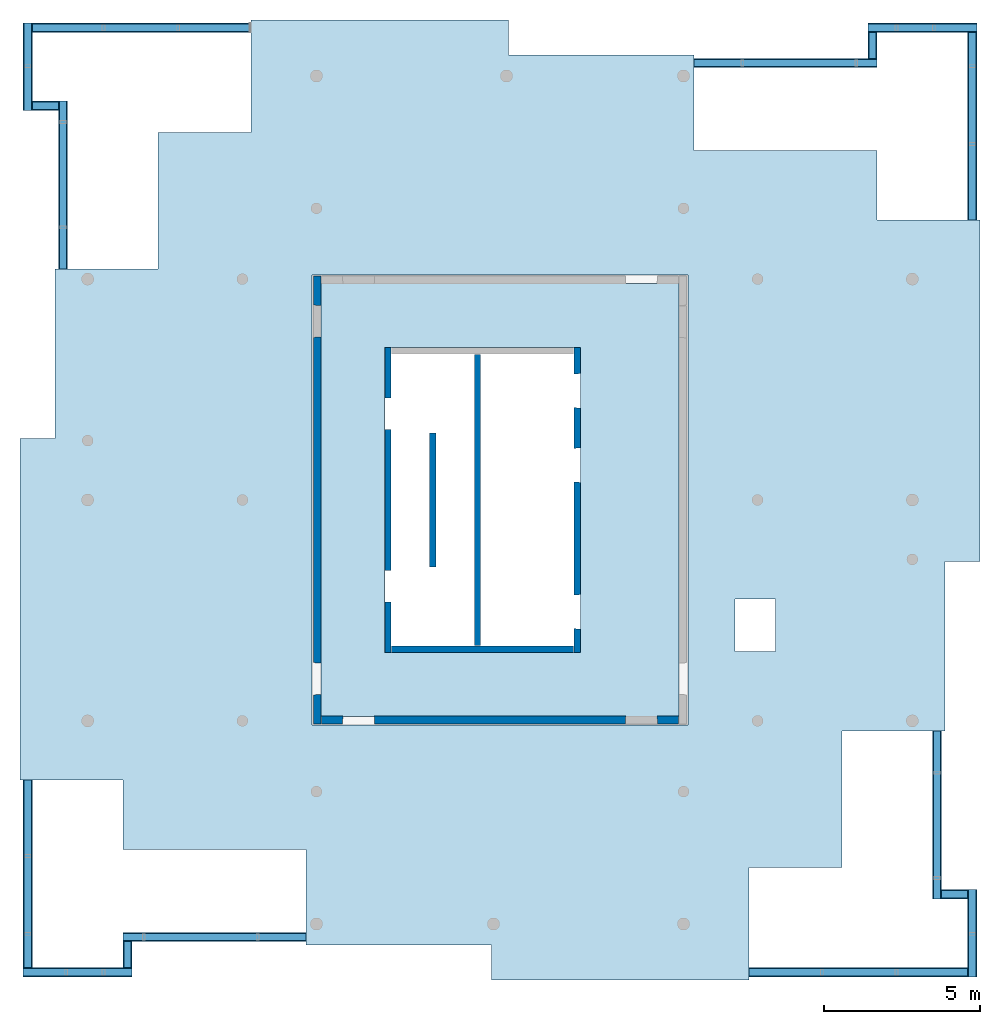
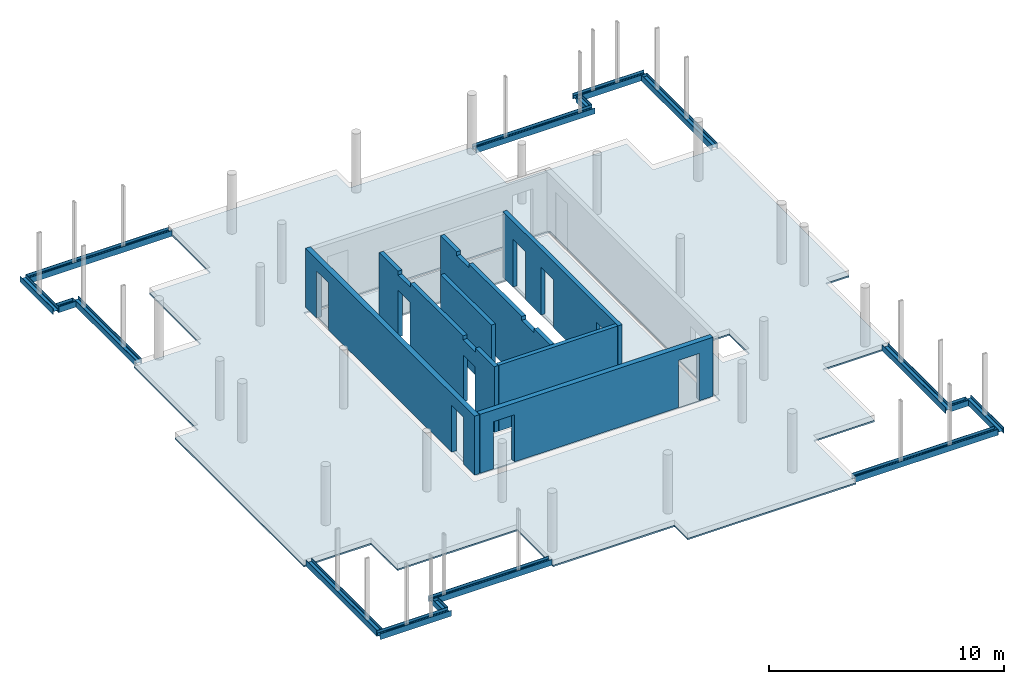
# One storey, part 5 of 7: 16 beams, 7 walls, 2 slabs, 22 openings.
"""IFC2X3 building model written with IfcOpenShell, lengths in millimetres."""

from ifc_helpers import new_model, entity, si_unit, converted_unit, derived_unit, direction, frame, frame_2d, origin, origin_2d_with_axis, place, context, subcontext, project, spatial, polyline, rectangle, i_section, outline, extrude, faceted_brep, material, layer, layer_set, layer_usage, type_object, element, save


model = new_model("IFC2X3")

# Units and contexts
model_context = context("Model", 3, precision=0.01, world=origin(), true_north=direction((6.12303176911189e-17, 1.0)))
body_context = subcontext(model_context, "Body", "Model", "MODEL_VIEW")
ifc_project = project(units=[si_unit("LENGTHUNIT", "METRE", prefix="MILLI"), si_unit("AREAUNIT", "SQUARE_METRE"), si_unit("VOLUMEUNIT", "CUBIC_METRE"), converted_unit("PLANEANGLEUNIT", "DEGREE", entity("IfcRatioMeasure", 0.0174532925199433), si_unit("PLANEANGLEUNIT", "RADIAN"), dimensions=[0, 0, 0, 0, 0, 0, 0]), si_unit("MASSUNIT", "GRAM", prefix="KILO"), derived_unit("MASSDENSITYUNIT", [(si_unit("MASSUNIT", "GRAM", prefix="KILO"), 1), (si_unit("LENGTHUNIT", "METRE"), -3)]), si_unit("TIMEUNIT", "SECOND"), si_unit("FREQUENCYUNIT", "HERTZ"), si_unit("THERMODYNAMICTEMPERATUREUNIT", "DEGREE_CELSIUS"), derived_unit("THERMALTRANSMITTANCEUNIT", [(si_unit("MASSUNIT", "GRAM", prefix="KILO"), 1), (si_unit("THERMODYNAMICTEMPERATUREUNIT", "KELVIN"), -1), (si_unit("TIMEUNIT", "SECOND"), -3)]), derived_unit("VOLUMETRICFLOWRATEUNIT", [(si_unit("LENGTHUNIT", "METRE"), 3), (si_unit("TIMEUNIT", "SECOND"), -1)]), si_unit("ELECTRICCURRENTUNIT", "AMPERE"), si_unit("ELECTRICVOLTAGEUNIT", "VOLT"), si_unit("POWERUNIT", "WATT"), si_unit("FORCEUNIT", "NEWTON", prefix="KILO"), si_unit("ILLUMINANCEUNIT", "LUX"), si_unit("LUMINOUSFLUXUNIT", "LUMEN"), si_unit("LUMINOUSINTENSITYUNIT", "CANDELA"), derived_unit("USERDEFINED", [(si_unit("MASSUNIT", "GRAM", prefix="KILO"), -1), (si_unit("LENGTHUNIT", "METRE"), -2), (si_unit("TIMEUNIT", "SECOND"), 3), (si_unit("LUMINOUSFLUXUNIT", "LUMEN"), 1)]), derived_unit("LINEARVELOCITYUNIT", [(si_unit("LENGTHUNIT", "METRE"), 1), (si_unit("TIMEUNIT", "SECOND"), -1)]), si_unit("PRESSUREUNIT", "PASCAL"), derived_unit("USERDEFINED", [(si_unit("LENGTHUNIT", "METRE"), -2), (si_unit("MASSUNIT", "GRAM", prefix="KILO"), 1), (si_unit("TIMEUNIT", "SECOND"), -2)])], contexts=[model_context])

# Site, building, storey
site_placement = place(None, origin())
site = spatial("IfcSite", under=ifc_project, at=site_placement, Name="Default", CompositionType="ELEMENT")
building_placement = place(site_placement, origin())
building = spatial("IfcBuilding", under=site, at=building_placement, Name="niet gebruiken", CompositionType="ELEMENT")
storey_placement = place(building_placement, frame((0.0, 0.0, 168300.0)))
storey = spatial("IfcBuildingStorey", under=building, at=storey_placement, Name="54 vierenvijftigste verdieping", CompositionType="ELEMENT", Elevation=168300.0)

# Beams
ifc_material_1 = material(Name="NLRS_h2_staal")
beam_type = type_object("IfcBeamType", Name="NLRS_28.11_SF_WPB_stalen ligger HEB_gen:ligger HEB 300", PredefinedType="BEAM")
beam_1_placement = place(storey_placement, frame((126420.0, 2470.0, -265.0), z_axis=(0.0, 0.0, 1.0), x_axis=(0.0, 1.0, 0.0)))
element("IfcBeam", 1, at=beam_1_placement, inside=storey, type_object=beam_type, material=ifc_material_1, Name="NLRS_28.11_SF_WPB_stalen ligger HEB_gen:ligger HEB 300", ObjectType="NLRS_28.11_SF_WPB_stalen ligger HEB_gen:ligger HEB 300", context=body_context, shape_type="SweptSolid", body=[
    extrude(i_section(OverallWidth=300.000000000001, OverallDepth=300.000000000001, WebThickness=10.9999999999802, FlangeThickness=18.9999999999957, FilletRadius=27.0000000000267, at=frame_2d((0.0, -1.73230318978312e-11), x_axis=(1.0, 0.0))), frame((0.0, -150.0, 0.0), z_axis=(1.0, 0.0, 0.0), x_axis=(0.0, 0.0, -1.0)), (0.0, 0.0, 1.0), 6025.0),
])
beam_2_placement = place(storey_placement, frame((129924.0, 2170.0, -265.0), z_axis=(0.0, 0.0, 1.0), x_axis=(-1.0, 0.0, 0.0)))
element("IfcBeam", 2, at=beam_2_placement, inside=storey, type_object=beam_type, material=ifc_material_1, Name="NLRS_28.11_SF_WPB_stalen ligger HEB_gen:ligger HEB 300", ObjectType="NLRS_28.11_SF_WPB_stalen ligger HEB_gen:ligger HEB 300", context=body_context, shape_type="SweptSolid", body=[
    extrude(i_section(OverallWidth=300.000000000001, OverallDepth=300.000000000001, WebThickness=10.9999999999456, FlangeThickness=18.9999999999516, FilletRadius=27.0000000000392, at=frame_2d((0.0, 1.09423581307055e-12), x_axis=(1.0, 0.0))), frame((0.0, -150.0, 0.0), z_axis=(1.0, 0.0, 0.0), x_axis=(0.0, 0.0, -1.0)), (0.0, 0.0, 1.0), 3504.0),
])
beam_3_placement = place(storey_placement, frame((129924.0, 3301.0, -265.0), z_axis=(0.0, 0.0, 1.0), x_axis=(0.0, -1.0, 0.0)))
element("IfcBeam", 3, at=beam_3_placement, inside=storey, type_object=beam_type, material=ifc_material_1, Name="NLRS_28.11_SF_WPB_stalen ligger HEB_gen:ligger HEB 300", ObjectType="NLRS_28.11_SF_WPB_stalen ligger HEB_gen:ligger HEB 300", context=body_context, shape_type="SweptSolid", body=[
    extrude(i_section(OverallWidth=300.000000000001, OverallDepth=300.000000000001, WebThickness=10.9999999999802, FlangeThickness=19.000000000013, FilletRadius=27.0000000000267, at=frame_2d((0.0, -1.73230318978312e-11), x_axis=(1.0, 0.0))), frame((0.0, -150.0, 0.0), z_axis=(1.0, 0.0, 0.0), x_axis=(0.0, 0.0, -1.0)), (0.0, 0.0, 1.0), 831.000000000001),
])
beam_4_placement = place(storey_placement, frame((135520.0, 3301.0, -265.0), z_axis=(0.0, 0.0, 1.0), x_axis=(-1.0, 0.0, 0.0)))
element("IfcBeam", 4, at=beam_4_placement, inside=storey, type_object=beam_type, material=ifc_material_1, Name="NLRS_28.11_SF_WPB_stalen ligger HEB_gen:ligger HEB 300", ObjectType="NLRS_28.11_SF_WPB_stalen ligger HEB_gen:ligger HEB 300", context=body_context, shape_type="SweptSolid", body=[
    extrude(i_section(OverallWidth=300.000000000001, OverallDepth=300.000000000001, WebThickness=10.999999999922, FlangeThickness=18.9999999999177, FilletRadius=27.0000000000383, at=frame_2d((0.0, 2.70006239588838e-13), x_axis=(1.0, 0.0))), frame((0.0, -150.0, 0.0), z_axis=(1.0, 0.0, 0.0), x_axis=(0.0, 0.0, -1.0)), (0.0, 0.0, 1.0), 5896.00000000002),
])
beam_5_placement = place(storey_placement, frame((126720.0, 32830.0, -265.0)))
element("IfcBeam", 5, at=beam_5_placement, inside=storey, type_object=beam_type, material=ifc_material_1, Name="NLRS_28.11_SF_WPB_stalen ligger HEB_gen:ligger HEB 300", ObjectType="NLRS_28.11_SF_WPB_stalen ligger HEB_gen:ligger HEB 300", context=body_context, shape_type="SweptSolid", body=[
    extrude(i_section(OverallWidth=300.000000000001, OverallDepth=299.999999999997, WebThickness=10.9999999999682, FlangeThickness=18.999999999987, FilletRadius=27.0000000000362, at=frame_2d((0.0, 4.33431068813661e-12), x_axis=(1.0, 0.0))), frame((0.0, -150.0, 0.0), z_axis=(1.0, 0.0, 0.0), x_axis=(0.0, 0.0, -1.0)), (0.0, 0.0, 1.0), 6990.00000000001),
])
beam_6_placement = place(storey_placement, frame((126420.0, 30026.0, -265.0), z_axis=(0.0, 0.0, 1.0), x_axis=(0.0, 1.0, 0.0)))
element("IfcBeam", 6, at=beam_6_placement, inside=storey, type_object=beam_type, material=ifc_material_1, Name="NLRS_28.11_SF_WPB_stalen ligger HEB_gen:ligger HEB 300", ObjectType="NLRS_28.11_SF_WPB_stalen ligger HEB_gen:ligger HEB 300", context=body_context, shape_type="SweptSolid", body=[
    extrude(i_section(OverallWidth=300.000000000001, OverallDepth=300.000000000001, WebThickness=10.9999999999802, FlangeThickness=19.000000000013, FilletRadius=27.0000000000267, at=frame_2d((0.0, 3.46602746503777e-11), x_axis=(1.0, 0.0))), frame((0.0, -150.0, 0.0), z_axis=(1.0, 0.0, 0.0), x_axis=(0.0, 0.0, -1.0)), (0.0, 0.0, 1.0), 2804.00000000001),
])
beam_7_placement = place(storey_placement, frame((127551.0, 30026.0, -265.0), z_axis=(0.0, 0.0, 1.0), x_axis=(-1.0, 0.0, 0.0)))
element("IfcBeam", 7, at=beam_7_placement, inside=storey, type_object=beam_type, material=ifc_material_1, Name="NLRS_28.11_SF_WPB_stalen ligger HEB_gen:ligger HEB 300", ObjectType="NLRS_28.11_SF_WPB_stalen ligger HEB_gen:ligger HEB 300", context=body_context, shape_type="SweptSolid", body=[
    extrude(i_section(OverallWidth=300.000000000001, OverallDepth=299.999999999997, WebThickness=10.9999999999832, FlangeThickness=19.0000000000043, FilletRadius=27.0000000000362, at=frame_2d((0.0, 4.33431068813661e-12), x_axis=(1.0, 0.0))), frame((0.0, -150.0, 0.0), z_axis=(1.0, 0.0, 0.0), x_axis=(0.0, 0.0, -1.0)), (0.0, 0.0, 1.0), 831.000000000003),
])
beam_8_placement = place(storey_placement, frame((127551.0, 24930.0, -265.0), z_axis=(0.0, 0.0, 1.0), x_axis=(0.0, 1.0, 0.0)))
element("IfcBeam", 8, at=beam_8_placement, inside=storey, type_object=beam_type, material=ifc_material_1, Name="NLRS_28.11_SF_WPB_stalen ligger HEB_gen:ligger HEB 300", ObjectType="NLRS_28.11_SF_WPB_stalen ligger HEB_gen:ligger HEB 300", context=body_context, shape_type="SweptSolid", body=[
    extrude(i_section(OverallWidth=300.000000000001, OverallDepth=300.000000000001, WebThickness=10.9999999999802, FlangeThickness=19.000000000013, FilletRadius=27.0000000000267, at=frame_2d((0.0, -1.73230318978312e-11), x_axis=(1.0, 0.0))), frame((0.0, -150.0, 0.0), z_axis=(1.0, 0.0, 0.0), x_axis=(0.0, 0.0, -1.0)), (0.0, 0.0, 1.0), 5396.0),
])
beam_9_placement = place(storey_placement, frame((157080.0, 32530.0, -265.0), z_axis=(0.0, 0.0, 1.0), x_axis=(0.0, -1.0, 0.0)))
element("IfcBeam", 9, at=beam_9_placement, inside=storey, type_object=beam_type, material=ifc_material_1, Name="NLRS_28.11_SF_WPB_stalen ligger HEB_gen:ligger HEB 300", ObjectType="NLRS_28.11_SF_WPB_stalen ligger HEB_gen:ligger HEB 300", context=body_context, shape_type="SweptSolid", body=[
    extrude(i_section(OverallWidth=300.000000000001, OverallDepth=300.000000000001, WebThickness=10.9999999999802, FlangeThickness=19.000000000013, FilletRadius=27.000000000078, at=origin_2d_with_axis()), frame((0.0, -150.0, 0.0), z_axis=(1.0, 0.0, 0.0), x_axis=(0.0, 0.0, -1.0)), (0.0, 0.0, 1.0), 6025.0),
])
beam_10_placement = place(storey_placement, frame((153576.0, 32830.0, -265.0)))
element("IfcBeam", 10, at=beam_10_placement, inside=storey, type_object=beam_type, material=ifc_material_1, Name="NLRS_28.11_SF_WPB_stalen ligger HEB_gen:ligger HEB 300", ObjectType="NLRS_28.11_SF_WPB_stalen ligger HEB_gen:ligger HEB 300", context=body_context, shape_type="SweptSolid", body=[
    extrude(i_section(OverallWidth=300.000000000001, OverallDepth=299.999999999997, WebThickness=10.9999999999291, FlangeThickness=18.9999999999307, FilletRadius=27.0000000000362, at=frame_2d((0.0, 4.32009983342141e-12), x_axis=(1.0, 0.0))), frame((0.0, -150.0, 0.0), z_axis=(1.0, 0.0, 0.0), x_axis=(0.0, 0.0, -1.0)), (0.0, 0.0, 1.0), 3504.00000000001),
])
beam_11_placement = place(storey_placement, frame((153576.0, 31699.0, -265.0), z_axis=(0.0, 0.0, 1.0), x_axis=(0.0, 1.0, 0.0)))
element("IfcBeam", 11, at=beam_11_placement, inside=storey, type_object=beam_type, material=ifc_material_1, Name="NLRS_28.11_SF_WPB_stalen ligger HEB_gen:ligger HEB 300", ObjectType="NLRS_28.11_SF_WPB_stalen ligger HEB_gen:ligger HEB 300", context=body_context, shape_type="SweptSolid", body=[
    extrude(i_section(OverallWidth=300.000000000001, OverallDepth=300.000000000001, WebThickness=10.9999999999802, FlangeThickness=18.9999999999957, FilletRadius=27.0000000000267, at=frame_2d((0.0, 1.73230318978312e-11), x_axis=(1.0, 0.0))), frame((0.0, -150.0, 0.0), z_axis=(1.0, 0.0, 0.0), x_axis=(0.0, 0.0, -1.0)), (0.0, 0.0, 1.0), 831.000000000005),
])
beam_12_placement = place(storey_placement, frame((147980.0, 31699.0, -265.0)))
element("IfcBeam", 12, at=beam_12_placement, inside=storey, type_object=beam_type, material=ifc_material_1, Name="NLRS_28.11_SF_WPB_stalen ligger HEB_gen:ligger HEB 300", ObjectType="NLRS_28.11_SF_WPB_stalen ligger HEB_gen:ligger HEB 300", context=body_context, shape_type="SweptSolid", body=[
    extrude(i_section(OverallWidth=300.000000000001, OverallDepth=300.000000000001, WebThickness=10.9999999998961, FlangeThickness=18.9999999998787, FilletRadius=27.0000000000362, at=frame_2d((0.0, 4.33431068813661e-12), x_axis=(1.0, 0.0))), frame((0.0, -150.0, 0.0), z_axis=(1.0, 0.0, 0.0), x_axis=(0.0, 0.0, -1.0)), (0.0, 0.0, 1.0), 5885.00000000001),
])
beam_13_placement = place(storey_placement, frame((156780.0, 2170.0, -265.0), z_axis=(0.0, 0.0, 1.0), x_axis=(-1.0, 0.0, 0.0)))
element("IfcBeam", 13, at=beam_13_placement, inside=storey, type_object=beam_type, material=ifc_material_1, Name="NLRS_28.11_SF_WPB_stalen ligger HEB_gen:ligger HEB 300", ObjectType="NLRS_28.11_SF_WPB_stalen ligger HEB_gen:ligger HEB 300", context=body_context, shape_type="SweptSolid", body=[
    extrude(i_section(OverallWidth=300.000000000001, OverallDepth=300.0, WebThickness=10.9999999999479, FlangeThickness=18.9999999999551, FilletRadius=27.0000000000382, at=frame_2d((0.0, 6.67910171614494e-13), x_axis=(1.0, 0.0))), frame((0.0, -150.0, 0.0), z_axis=(1.0, 0.0, 0.0), x_axis=(0.0, 0.0, -1.0)), (0.0, 0.0, 1.0), 7025.0),
])
beam_14_placement = place(storey_placement, frame((157080.0, 4974.0, -265.0), z_axis=(0.0, 0.0, 1.0), x_axis=(0.0, -1.0, 0.0)))
element("IfcBeam", 14, at=beam_14_placement, inside=storey, type_object=beam_type, material=ifc_material_1, Name="NLRS_28.11_SF_WPB_stalen ligger HEB_gen:ligger HEB 300", ObjectType="NLRS_28.11_SF_WPB_stalen ligger HEB_gen:ligger HEB 300", context=body_context, shape_type="SweptSolid", body=[
    extrude(i_section(OverallWidth=300.000000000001, OverallDepth=300.000000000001, WebThickness=10.9999999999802, FlangeThickness=18.9999999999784, FilletRadius=27.000000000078, at=frame_2d((0.0, -3.46602746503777e-11), x_axis=(1.0, 0.0))), frame((0.0, -150.0, 0.0), z_axis=(1.0, 0.0, 0.0), x_axis=(0.0, 0.0, -1.0)), (0.0, 0.0, 1.0), 2804.0),
])
beam_15_placement = place(storey_placement, frame((155949.0, 4974.0, -265.0)))
element("IfcBeam", 15, at=beam_15_placement, inside=storey, type_object=beam_type, material=ifc_material_1, Name="NLRS_28.11_SF_WPB_stalen ligger HEB_gen:ligger HEB 300", ObjectType="NLRS_28.11_SF_WPB_stalen ligger HEB_gen:ligger HEB 300", context=body_context, shape_type="SweptSolid", body=[
    extrude(i_section(OverallWidth=300.000000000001, OverallDepth=300.000000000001, WebThickness=10.9999999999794, FlangeThickness=19.0000000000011, FilletRadius=27.0000000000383, at=frame_2d((0.0, 5.40012479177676e-13), x_axis=(1.0, 0.0))), frame((0.0, -150.0, 0.0), z_axis=(1.0, 0.0, 0.0), x_axis=(0.0, 0.0, -1.0)), (0.0, 0.0, 1.0), 831.000000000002),
])
beam_16_placement = place(storey_placement, frame((155949.0, 10070.0, -265.0), z_axis=(0.0, 0.0, 1.0), x_axis=(0.0, -1.0, 0.0)))
element("IfcBeam", 16, at=beam_16_placement, inside=storey, type_object=beam_type, material=ifc_material_1, Name="NLRS_28.11_SF_WPB_stalen ligger HEB_gen:ligger HEB 300", ObjectType="NLRS_28.11_SF_WPB_stalen ligger HEB_gen:ligger HEB 300", context=body_context, shape_type="SweptSolid", body=[
    extrude(i_section(OverallWidth=300.000000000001, OverallDepth=300.000000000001, WebThickness=10.9999999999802, FlangeThickness=19.000000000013, FilletRadius=27.0000000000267, at=frame_2d((0.0, 3.46602746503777e-11), x_axis=(1.0, 0.0))), frame((0.0, -150.0, 0.0), z_axis=(1.0, 0.0, 0.0), x_axis=(0.0, 0.0, -1.0)), (0.0, 0.0, 1.0), 5396.0),
])

# Slab, openings
ifc_material_2 = material(Name="NLRS_f2_beton prefab")
ifc_layer_1 = layer(ifc_material_2, 80.0)
ifc_layer_set_1 = layer_set([ifc_layer_1], Name="Floor:NLRS_23.21_FL_breedplaat d=80_gen")
ifc_layer_usage_1 = layer_usage(ifc_layer_set_1, "AXIS3", "POSITIVE", 0.0)
slab_1_placement = place(storey_placement, frame((126320.0, 2070.0, -440.0)))
slab_1 = element("IfcSlab", 17, at=slab_1_placement, inside=storey, material=ifc_layer_usage_1, Name="Floor:NLRS_23.21_FL_breedplaat d=80_gen", ObjectType="Floor:NLRS_23.21_FL_breedplaat d=80_gen", PredefinedType="FLOOR", context=body_context, shape_type="SweptSolid", body=[
    extrude(outline(polyline([(14299.0, 1974.0), (14299.0, 7430.0), (11000.0, 7430.0), (11000.0, 11815.0), (8005.0, 11815.0), (8005.0, 15430.0), (-274.0, 15430.0), (-274.0, 14299.0), (-6230.0, 14299.0), (-6230.0, 11230.0), (-12120.0, 11230.0), (-12120.0, 9005.0), (-15430.0, 9005.0), (-15430.0, -1974.0), (-14299.0, -1974.0), (-14299.0, -7430.0), (-11000.0, -7430.0), (-11000.0, -11815.0), (-8005.0, -11815.0), (-8005.0, -15430.0), (274.0, -15430.0), (274.0, -14299.0), (6230.0, -14299.0), (6230.0, -11230.0), (12120.0, -11230.0), (12120.0, -9005.0), (15430.0, -9005.0), (15430.0, 1974.0), (14299.0, 1974.0)])), frame((15430.0, 15430.0, 80.0), z_axis=(0.0, 0.0, -1.0), x_axis=(-1.0, 0.0, 0.0)), (0.0, 0.0, 1.0), 80.0000000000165),
])
opening_1_placement = place(slab_1_placement, frame((15430.0, 15430.0, 80.0)))
element("IfcOpeningElement", 18, at=opening_1_placement, cuts=slab_1, Name="Floor:NLRS_23.21_FL_breedplaat d=80_gen:2", ObjectType="Opening", context=body_context, shape_type="SweptSolid", body=[
    extrude(rectangle(XDim=12080.0000000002, YDim=14479.9999999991, at=origin_2d_with_axis()), frame((0.0, 0.0, 0.0), z_axis=(0.0, 0.0, -1.0), x_axis=(1.0, 0.0, 0.0)), (0.0, 0.0, 1.0), 80.0000000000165),
])
opening_2_placement = place(slab_1_placement, frame((23630.0, 11410.0, 80.0)))
element("IfcOpeningElement", 19, at=opening_2_placement, cuts=slab_1, Name="Floor:NLRS_23.21_FL_breedplaat d=80_gen:3", ObjectType="Opening", context=body_context, shape_type="SweptSolid", body=[
    extrude(rectangle(XDim=1690.0, YDim=1300.00000000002, at=origin_2d_with_axis()), frame((0.0, 0.0, 0.0), z_axis=(0.0, 0.0, -1.0), x_axis=(0.0, 1.0, 0.0)), (0.0, 0.0, 1.0), 80.0000000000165),
])

# Slab, opening
ifc_layer_2 = layer(ifc_material_2, 60.0)
ifc_layer_set_2 = layer_set([ifc_layer_2], Name="Floor:NLRS_23.21_FL_breedplaat d=60_gen")
ifc_layer_usage_2 = layer_usage(ifc_layer_set_2, "AXIS3", "POSITIVE", 0.0)
slab_2_placement = place(storey_placement, frame((135990.0, 10540.0, -320.0)))
slab_2 = element("IfcSlab", 20, at=slab_2_placement, inside=storey, material=ifc_layer_usage_2, Name="Floor:NLRS_23.21_FL_breedplaat d=60_gen", ObjectType="Floor:NLRS_23.21_FL_breedplaat d=60_gen", PredefinedType="FLOOR", context=body_context, shape_type="SweptSolid", body=[
    extrude(rectangle(XDim=13919.9999999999, YDim=11520.0, at=frame_2d((0.0, 0.0), x_axis=(0.0, -1.0))), frame((5760.0, 6960.0, 60.0), z_axis=(0.0, 0.0, -1.0), x_axis=(-1.0, 0.0, 0.0)), (0.0, 0.0, 1.0), 59.9999999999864),
])
opening_3_placement = place(slab_2_placement, frame((5200.0, 6960.0, 60.0)))
element("IfcOpeningElement", 21, at=opening_3_placement, cuts=slab_2, Name="Floor:NLRS_23.21_FL_breedplaat d=60_gen:2", ObjectType="Opening", context=body_context, shape_type="SweptSolid", body=[
    extrude(rectangle(XDim=9820.0, YDim=6299.99999999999, at=origin_2d_with_axis()), frame((0.0, 0.0, 0.0), z_axis=(0.0, 0.0, -1.0), x_axis=(0.0, -1.0, 0.0)), (0.0, 0.0, 1.0), 59.9999999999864),
])

# Wall, openings
ifc_layer_3 = layer(ifc_material_2, 200.0)
ifc_layer_set_3 = layer_set([ifc_layer_3], Name="Basic Wall:NLRS_22.21_WA_beton prefab d=200_gen")
ifc_layer_usage_3 = layer_usage(ifc_layer_set_3, "AXIS2", "NEGATIVE", 100.0)
wall_type_1 = type_object("IfcWallType", Name="Basic Wall:NLRS_22.21_WA_beton prefab d=200_gen", PredefinedType="STANDARD", material=ifc_layer_set_3)
wall_1_placement = place(storey_placement, frame((138150.0, 22400.0, -50.0), z_axis=(0.0, 0.0, 1.0), x_axis=(0.0, -1.0, 0.0)))
wall_1 = element("IfcWallStandardCase", 22, at=wall_1_placement, inside=storey, type_object=wall_type_1, material=ifc_layer_usage_3, Name="Basic Wall:NLRS_22.21_WA_beton prefab d=200_gen", ObjectType="Basic Wall:NLRS_22.21_WA_beton prefab d=200_gen", context=body_context, shape_type="SweptSolid", body=[
    extrude(rectangle(XDim=9800.0, YDim=199.999999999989, at=frame_2d((4900.0, 3.76587649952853e-13), x_axis=(-1.0, 0.0))), origin(), (0.0, 0.0, 1.0), 3419.99999999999),
])
opening_4_placement = place(wall_1_placement, origin())
element("IfcOpeningElement", 23, at=opening_4_placement, cuts=wall_1, Name="Basic Wall:NLRS_22.21_WA_beton prefab d=200_gen", ObjectType="Opening", context=body_context, shape_type="SweptSolid", body=[
    extrude(rectangle(XDim=200.000000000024, YDim=1044.0, at=origin_2d_with_axis()), frame((7672.0, -100.0, 3320.0), z_axis=(0.0, 1.0, 0.0), x_axis=(0.0, 0.0, -1.0)), (0.0, 0.0, 1.0), 199.999999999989),
])
opening_5_placement = place(wall_1_placement, origin())
element("IfcOpeningElement", 24, at=opening_5_placement, cuts=wall_1, Name="Basic Wall:NLRS_22.21_WA_beton prefab d=200_gen", ObjectType="Opening", context=body_context, shape_type="SweptSolid", body=[
    extrude(rectangle(XDim=200.000000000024, YDim=1044.0, at=frame_2d((0.0, 2.1600499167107e-12), x_axis=(1.0, 0.0))), frame((2128.0, -100.0, 3320.0), z_axis=(0.0, 1.0, 0.0), x_axis=(0.0, 0.0, -1.0)), (0.0, 0.0, 1.0), 199.999999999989),
])
opening_6_placement = place(wall_1_placement, origin())
element("IfcOpeningElement", 25, at=opening_6_placement, cuts=wall_1, Name="Basic Wall:NLRS_22.21_WA_beton prefab d=200_gen", ObjectType="Opening", context=body_context, shape_type="SweptSolid", body=[
    extrude(rectangle(XDim=2435.00000000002, YDim=1015.99999999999, at=frame_2d((-1.72803993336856e-11, -1.10844666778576e-12), x_axis=(1.0, 0.0))), frame((7672.0, -100.0, 1217.49999999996), z_axis=(0.0, 1.0, 0.0), x_axis=(0.0, 0.0, -1.0)), (0.0, 0.0, 1.0), 199.999999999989),
])
opening_7_placement = place(wall_1_placement, origin())
element("IfcOpeningElement", 26, at=opening_7_placement, cuts=wall_1, Name="Basic Wall:NLRS_22.21_WA_beton prefab d=200_gen", ObjectType="Opening", context=body_context, shape_type="SweptSolid", body=[
    extrude(rectangle(XDim=2435.00000000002, YDim=1015.99999999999, at=frame_2d((-1.72803993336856e-11, -2.18847162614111e-12), x_axis=(1.0, 0.0))), frame((2128.0, -100.0, 1217.49999999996), z_axis=(0.0, 1.0, 0.0), x_axis=(0.0, 0.0, -1.0)), (0.0, 0.0, 1.0), 199.999999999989),
])

ifc_layer_usage_4 = layer_usage(ifc_layer_set_3, "AXIS2", "NEGATIVE", 100.0)
wall_2_placement = place(storey_placement, frame((144230.0, 22400.0, -50.0), z_axis=(0.0, 0.0, 1.0), x_axis=(0.0, -1.0, 0.0)))
wall_2 = element("IfcWallStandardCase", 27, at=wall_2_placement, inside=storey, type_object=wall_type_1, material=ifc_layer_usage_4, Name="Basic Wall:NLRS_22.21_WA_beton prefab d=200_gen", ObjectType="Basic Wall:NLRS_22.21_WA_beton prefab d=200_gen", context=body_context, shape_type="SweptSolid", body=[
    extrude(rectangle(XDim=9800.0, YDim=199.999999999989, at=frame_2d((4900.0, -3.69482222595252e-13), x_axis=(-1.0, 0.0))), origin(), (0.0, 0.0, 1.0), 3419.99999999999),
])
opening_8_placement = place(wall_2_placement, frame((4332.0, -100.0, 0.0)))
element("IfcOpeningElement", 28, at=opening_8_placement, cuts=wall_2, Name="Basic Wall:NLRS_22.21_WA_beton prefab d=200_gen", ObjectType="Opening", context=body_context, shape_type="Brep", body=[
    faceted_brep([(-1104.0, 200.0, 2502.0), (-1104.0, 200.0, 0.0), (-1092.0, 0.0, 0.0), (-1092.0, 0.0, 2490.0), (0.0, 200.0, 0.0), (-12.0, 0.0, 0.0), (-12.0, 0.0, 2490.0), (0.0, 200.0, 2502.0)], [[[0, 1, 2, 3]], [[1, 4, 5, 2]], [[6, 3, 2, 5]], [[7, 4, 1, 0]], [[7, 0, 3, 6]], [[4, 7, 6, 5]]]),
])
opening_9_placement = place(wall_2_placement, frame((1942.0, -100.0, 0.0)))
element("IfcOpeningElement", 29, at=opening_9_placement, cuts=wall_2, Name="Basic Wall:NLRS_22.21_WA_beton prefab d=200_gen", ObjectType="Opening", context=body_context, shape_type="Brep", body=[
    faceted_brep([(-1104.0, 200.0, 2502.0), (-1104.0, 200.0, 0.0), (-1092.0, 0.0, 0.0), (-1092.0, 0.0, 2490.0), (0.0, 200.0, 0.0), (-12.0, 0.0, 0.0), (-12.0, 0.0, 2490.0), (0.0, 200.0, 2502.0)], [[[0, 1, 2, 3]], [[1, 4, 5, 2]], [[6, 3, 2, 5]], [[7, 4, 1, 0]], [[7, 0, 3, 6]], [[4, 7, 6, 5]]]),
])
opening_10_placement = place(wall_2_placement, frame((9047.0, -100.0, 0.0)))
element("IfcOpeningElement", 30, at=opening_10_placement, cuts=wall_2, Name="Basic Wall:NLRS_22.21_WA_beton prefab d=200_gen", ObjectType="Opening", context=body_context, shape_type="Brep", body=[
    faceted_brep([(-12.0, 0.0, 2490.0), (-1092.0, 0.0, 2490.0), (-1092.0, 0.0, 0.0), (-12.0, 0.0, 0.0), (0.0, 200.0, 2502.0), (0.0, 200.0, 0.0), (-1104.0, 200.0, 0.0), (-1104.0, 200.0, 2502.0)], [[[0, 1, 2, 3]], [[4, 5, 6, 7]], [[4, 7, 1, 0]], [[7, 6, 2, 1]], [[6, 5, 3, 2]], [[5, 4, 0, 3]]]),
])

ifc_layer_usage_5 = layer_usage(ifc_layer_set_3, "AXIS2", "NEGATIVE", 100.0)
wall_3_placement = place(storey_placement, frame((141030.0, 22180.0, -50.0), z_axis=(0.0, 0.0, 1.0), x_axis=(0.0, -1.0, 0.0)))
wall_3 = element("IfcWallStandardCase", 31, at=wall_3_placement, inside=storey, type_object=wall_type_1, material=ifc_layer_usage_5, Name="Basic Wall:NLRS_22.21_WA_beton prefab d=200_gen", ObjectType="Basic Wall:NLRS_22.21_WA_beton prefab d=200_gen", context=body_context, shape_type="SweptSolid", body=[
    extrude(rectangle(XDim=9360.0, YDim=199.999999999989, at=frame_2d((4680.0, -2.8421709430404e-14), x_axis=(-1.0, 0.0))), origin(), (0.0, 0.0, 1.0), 3419.99999999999),
])
opening_11_placement = place(wall_3_placement, origin())
element("IfcOpeningElement", 32, at=opening_11_placement, cuts=wall_3, Name="Basic Wall:NLRS_22.21_WA_beton prefab d=200_gen", ObjectType="Opening", context=body_context, shape_type="SweptSolid", body=[
    extrude(rectangle(XDim=89.9999999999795, YDim=1044.0, at=frame_2d((-1.732658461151e-11, 0.0), x_axis=(1.0, 0.0))), frame((7452.0, -100.0, 25.0), z_axis=(0.0, 1.0, 0.0), x_axis=(0.0, 0.0, -1.0)), (0.0, 0.0, 1.0), 199.999999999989),
])
opening_12_placement = place(wall_3_placement, origin())
element("IfcOpeningElement", 33, at=opening_12_placement, cuts=wall_3, Name="Basic Wall:NLRS_22.21_WA_beton prefab d=200_gen", ObjectType="Opening", context=body_context, shape_type="SweptSolid", body=[
    extrude(rectangle(XDim=89.9999999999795, YDim=1044.0, at=frame_2d((-1.732658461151e-11, 2.1600499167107e-12), x_axis=(1.0, 0.0))), frame((1908.0, -100.0, 25.0), z_axis=(0.0, 1.0, 0.0), x_axis=(0.0, 0.0, -1.0)), (0.0, 0.0, 1.0), 199.999999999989),
])
opening_13_placement = place(wall_3_placement, origin())
element("IfcOpeningElement", 34, at=opening_13_placement, cuts=wall_3, Name="Basic Wall:NLRS_22.21_WA_beton prefab d=200_gen", ObjectType="Opening", context=body_context, shape_type="SweptSolid", body=[
    extrude(rectangle(XDim=200.000000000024, YDim=1044.0, at=frame_2d((0.0, 2.1600499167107e-12), x_axis=(1.0, 0.0))), frame((1908.0, -100.0, 3320.0), z_axis=(0.0, 1.0, 0.0), x_axis=(0.0, 0.0, -1.0)), (0.0, 0.0, 1.0), 199.999999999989),
])
opening_14_placement = place(wall_3_placement, origin())
element("IfcOpeningElement", 35, at=opening_14_placement, cuts=wall_3, Name="Basic Wall:NLRS_22.21_WA_beton prefab d=200_gen", ObjectType="Opening", context=body_context, shape_type="SweptSolid", body=[
    extrude(rectangle(XDim=200.000000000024, YDim=1044.0, at=frame_2d((0.0, 2.1600499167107e-12), x_axis=(1.0, 0.0))), frame((7452.0, -100.0, 3320.0), z_axis=(0.0, 1.0, 0.0), x_axis=(0.0, 0.0, -1.0)), (0.0, 0.0, 1.0), 199.999999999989),
])
opening_15_placement = place(wall_3_placement, origin())
element("IfcOpeningElement", 36, at=opening_15_placement, cuts=wall_3, Name="Basic Wall:NLRS_22.21_WA_beton prefab d=200_gen", ObjectType="Recess", context=body_context, shape_type="SweptSolid", body=[
    extrude(rectangle(XDim=399.999999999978, YDim=280.000000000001, at=frame_2d((2.1600499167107e-12, 0.0), x_axis=(0.0, 1.0))), frame((770.0, -60.0, 438.0), z_axis=(0.0, 1.0, 0.0), x_axis=(1.0, 0.0, 0.0)), (0.0, 0.0, 1.0), 159.999999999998),
])
opening_16_placement = place(wall_3_placement, origin())
element("IfcOpeningElement", 37, at=opening_16_placement, cuts=wall_3, Name="Basic Wall:NLRS_22.21_WA_beton prefab d=200_gen", ObjectType="Recess", context=body_context, shape_type="SweptSolid", body=[
    extrude(rectangle(XDim=399.999999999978, YDim=280.000000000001, at=frame_2d((2.1600499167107e-12, 0.0), x_axis=(0.0, 1.0))), frame((1570.0, -60.0, 438.0), z_axis=(0.0, 1.0, 0.0), x_axis=(1.0, 0.0, 0.0)), (0.0, 0.0, 1.0), 159.999999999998),
])
opening_17_placement = place(wall_3_placement, origin())
element("IfcOpeningElement", 38, at=opening_17_placement, cuts=wall_3, Name="Basic Wall:NLRS_22.21_WA_beton prefab d=200_gen", ObjectType="Recess", context=body_context, shape_type="SweptSolid", body=[
    extrude(rectangle(XDim=399.999999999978, YDim=279.999999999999, at=frame_2d((-1.08002495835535e-12, 0.0), x_axis=(0.0, 1.0))), frame((3160.0, -60.0, 438.0), z_axis=(0.0, 1.0, 0.0), x_axis=(1.0, 0.0, 0.0)), (0.0, 0.0, 1.0), 159.999999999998),
])
opening_18_placement = place(wall_3_placement, origin())
element("IfcOpeningElement", 39, at=opening_18_placement, cuts=wall_3, Name="Basic Wall:NLRS_22.21_WA_beton prefab d=200_gen", ObjectType="Recess", context=body_context, shape_type="SweptSolid", body=[
    extrude(rectangle(XDim=399.999999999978, YDim=279.999999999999, at=frame_2d((1.08002495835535e-12, 0.0), x_axis=(0.0, 1.0))), frame((3960.0, -60.0, 438.0), z_axis=(0.0, 1.0, 0.0), x_axis=(1.0, 0.0, 0.0)), (0.0, 0.0, 1.0), 159.999999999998),
])

# Walls
ifc_layer_usage_6 = layer_usage(ifc_layer_set_3, "AXIS2", "NEGATIVE", 100.0)
wall_4_placement = place(storey_placement, frame((139590.0, 19660.0, -50.0), z_axis=(0.0, 0.0, 1.0), x_axis=(0.0, -1.0, 0.0)))
element("IfcWallStandardCase", 40, at=wall_4_placement, inside=storey, type_object=wall_type_1, material=ifc_layer_usage_6, Name="Basic Wall:NLRS_22.21_WA_beton prefab d=200_gen", ObjectType="Basic Wall:NLRS_22.21_WA_beton prefab d=200_gen", context=body_context, shape_type="SweptSolid", body=[
    extrude(rectangle(XDim=4319.99999999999, YDim=199.999999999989, at=frame_2d((2160.0, 0.0), x_axis=(-1.0, 0.0))), origin(), (0.0, 0.0, 1.0), 3419.99999999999),
])
ifc_layer_usage_7 = layer_usage(ifc_layer_set_3, "AXIS2", "NEGATIVE", 100.0)
wall_5_placement = place(storey_placement, frame((138270.0, 12700.0, -50.0)))
element("IfcWallStandardCase", 41, at=wall_5_placement, inside=storey, type_object=wall_type_1, material=ifc_layer_usage_7, Name="Basic Wall:NLRS_22.21_WA_beton prefab d=200_gen", ObjectType="Basic Wall:NLRS_22.21_WA_beton prefab d=200_gen", context=body_context, shape_type="SweptSolid", body=[
    extrude(rectangle(XDim=5839.99999999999, YDim=199.999999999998, at=frame_2d((2919.99999999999, -6.82121026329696e-13), x_axis=(-1.0, 0.0))), origin(), (0.0, 0.0, 1.0), 3419.99999999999),
])

# Wall, openings
ifc_layer_4 = layer(ifc_material_2, 250.0)
ifc_layer_set_4 = layer_set([ifc_layer_4], Name="Basic Wall:NLRS_22.21_WA_beton prefab d=250_gen")
ifc_layer_usage_8 = layer_usage(ifc_layer_set_4, "AXIS2", "NEGATIVE", 125.0)
wall_type_2 = type_object("IfcWallType", Name="Basic Wall:NLRS_22.21_WA_beton prefab d=250_gen", PredefinedType="STANDARD", material=ifc_layer_set_4)
wall_6_placement = place(storey_placement, frame((135875.0, 24700.0, -60.0), z_axis=(0.0, 0.0, 1.0), x_axis=(0.0, -1.0, 0.0)))
wall_6 = element("IfcWallStandardCase", 42, at=wall_6_placement, inside=storey, type_object=wall_type_2, material=ifc_layer_usage_8, Name="Basic Wall:NLRS_22.21_WA_beton prefab d=250_gen", ObjectType="Basic Wall:NLRS_22.21_WA_beton prefab d=250_gen", context=body_context, shape_type="SweptSolid", body=[
    extrude(rectangle(XDim=14399.9999999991, YDim=250.000000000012, at=frame_2d((7199.99999999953, 0.0), x_axis=(-1.0, 0.0))), origin(), (0.0, 0.0, 1.0), 3060.0),
])
opening_19_placement = place(wall_6_placement, frame((13465.0, -125.0, -10.0)))
element("IfcOpeningElement", 43, at=opening_19_placement, cuts=wall_6, Name="Basic Wall:NLRS_22.21_WA_beton prefab d=250_gen", ObjectType="Opening", context=body_context, shape_type="Brep", body=[
    faceted_brep([(-1036.0, 0.0, 2463.0), (-1021.0, 250.0, 2448.0), (-1021.0, 250.0, 0.0), (-1036.0, 0.0, 0.0), (-15.0, 250.0, 0.0), (0.0, 0.0, 0.0), (-15.0, 250.0, 2448.0), (0.0, 0.0, 2463.0)], [[[0, 1, 2, 3]], [[3, 2, 4, 5]], [[6, 4, 2, 1]], [[7, 0, 3, 5]], [[7, 6, 1, 0]], [[5, 4, 6, 7]]]),
])
opening_20_placement = place(wall_6_placement, frame((1971.0, -125.0, -10.0)))
element("IfcOpeningElement", 44, at=opening_20_placement, cuts=wall_6, Name="Basic Wall:NLRS_22.21_WA_beton prefab d=250_gen", ObjectType="Opening", context=body_context, shape_type="Brep", body=[
    faceted_brep([(-1036.0, 0.0, 2463.0), (-1021.0, 250.0, 2448.0), (-1021.0, 250.0, 0.0), (-1036.0, 0.0, 0.0), (-15.0, 250.0, 0.0), (0.0, 0.0, 0.0), (-15.0, 250.0, 2448.0), (0.0, 0.0, 2463.0)], [[[0, 1, 2, 3]], [[3, 2, 4, 5]], [[6, 4, 2, 1]], [[7, 0, 3, 5]], [[7, 6, 1, 0]], [[5, 4, 6, 7]]]),
])

ifc_layer_usage_9 = layer_usage(ifc_layer_set_4, "AXIS2", "NEGATIVE", 125.0)
wall_7_placement = place(storey_placement, frame((136020.0, 10425.0, -60.0)))
wall_7 = element("IfcWallStandardCase", 45, at=wall_7_placement, inside=storey, type_object=wall_type_2, material=ifc_layer_usage_9, Name="Basic Wall:NLRS_22.21_WA_beton prefab d=250_gen", ObjectType="Basic Wall:NLRS_22.21_WA_beton prefab d=250_gen", context=body_context, shape_type="SweptSolid", body=[
    extrude(rectangle(XDim=11460.0, YDim=249.999999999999, at=frame_2d((5730.00000000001, 0.0), x_axis=(-1.0, 0.0))), origin(), (0.0, 0.0, 1.0), 3060.0),
])
opening_21_placement = place(wall_7_placement, frame((665.0, -125.0, -10.0)))
element("IfcOpeningElement", 46, at=opening_21_placement, cuts=wall_7, Name="Basic Wall:NLRS_22.21_WA_beton prefab d=250_gen", ObjectType="Opening", context=body_context, shape_type="Brep", body=[
    faceted_brep([(0.0, 0.0, 2463.0), (15.0, 250.0, 2448.0), (15.0, 250.0, 0.0), (0.0, 0.0, 0.0), (1021.0, 250.0, 0.0), (1036.0, 0.0, 0.0), (1021.0, 250.0, 2448.0), (1036.0, 0.0, 2463.0)], [[[0, 1, 2, 3]], [[3, 2, 4, 5]], [[6, 4, 2, 1]], [[7, 0, 3, 5]], [[7, 6, 1, 0]], [[5, 4, 6, 7]]]),
])
opening_22_placement = place(wall_7_placement, frame((9759.0, -125.0, -10.0)))
element("IfcOpeningElement", 47, at=opening_22_placement, cuts=wall_7, Name="Basic Wall:NLRS_22.21_WA_beton prefab d=250_gen", ObjectType="Opening", context=body_context, shape_type="Brep", body=[
    faceted_brep([(0.0, 0.0, 2463.0), (15.0, 250.0, 2448.0), (15.0, 250.0, 0.0), (0.0, 0.0, 0.0), (1021.0, 250.0, 0.0), (1036.0, 0.0, 0.0), (1021.0, 250.0, 2448.0), (1036.0, 0.0, 2463.0)], [[[0, 1, 2, 3]], [[3, 2, 4, 5]], [[6, 4, 2, 1]], [[7, 0, 3, 5]], [[7, 6, 1, 0]], [[5, 4, 6, 7]]]),
])

save(model, "model.ifc")
